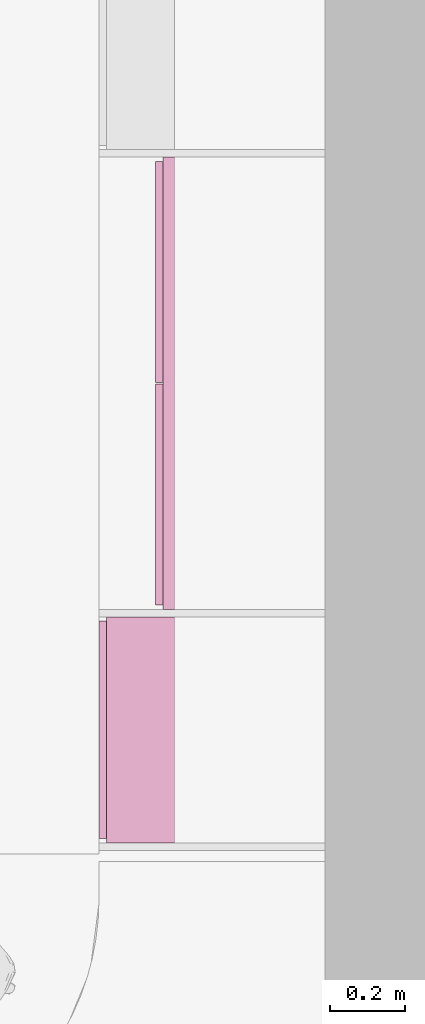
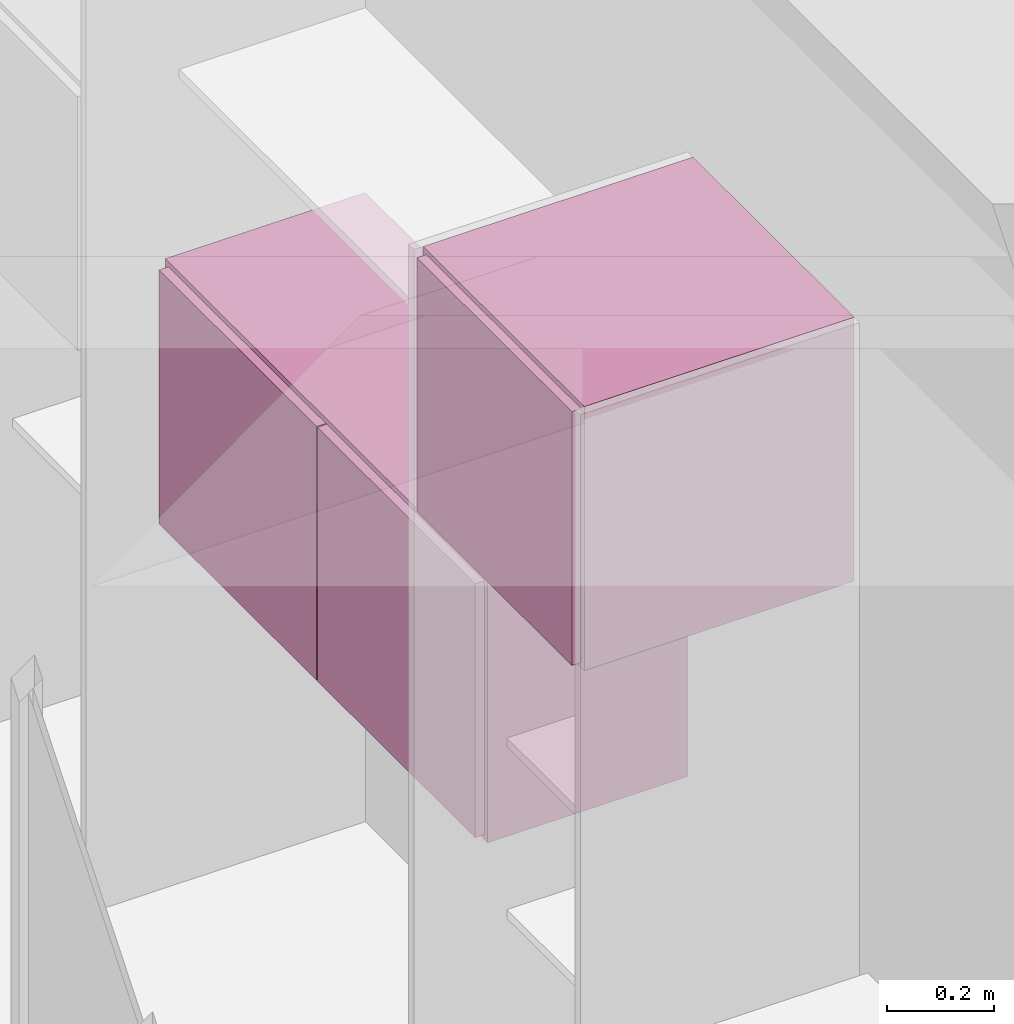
# One storey, part 52 of 64: 2 furnishings.
"""IFC2X3 building model written with IfcOpenShell, lengths in metres."""

from ifc_helpers import new_model, entity, si_unit, converted_unit, derived_unit, direction, frame, origin, place, context, subcontext, project, spatial, faceted_brep, source, transform, mapped, material, type_object, type_shapes, element, save


model = new_model("IFC2X3")

# Units and contexts
model_context = context("Model", 3, precision=1e-05, world=origin(), true_north=direction((6.123031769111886e-17, 1.0)))
body_context = subcontext(model_context, "Body", "Model", "MODEL_VIEW")
ifc_project = project(units=[si_unit("LENGTHUNIT", "METRE"), si_unit("AREAUNIT", "SQUARE_METRE"), si_unit("VOLUMEUNIT", "CUBIC_METRE"), converted_unit("PLANEANGLEUNIT", "DEGREE", entity("IfcRatioMeasure", 0.017453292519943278), si_unit("PLANEANGLEUNIT", "RADIAN"), dimensions=[0, 0, 0, 0, 0, 0, 0]), si_unit("MASSUNIT", "GRAM", prefix="KILO"), derived_unit("MASSDENSITYUNIT", [(si_unit("MASSUNIT", "GRAM", prefix="KILO"), 1), (si_unit("LENGTHUNIT", "METRE"), -3)]), derived_unit("MOMENTOFINERTIAUNIT", [(si_unit("LENGTHUNIT", "METRE"), 4)]), si_unit("TIMEUNIT", "SECOND"), si_unit("FREQUENCYUNIT", "HERTZ"), si_unit("THERMODYNAMICTEMPERATUREUNIT", "DEGREE_CELSIUS"), derived_unit("THERMALTRANSMITTANCEUNIT", [(si_unit("MASSUNIT", "GRAM", prefix="KILO"), 1), (si_unit("THERMODYNAMICTEMPERATUREUNIT", "KELVIN"), -1), (si_unit("TIMEUNIT", "SECOND"), -3)]), derived_unit("THERMALCONDUCTANCEUNIT", [(si_unit("MASSUNIT", "GRAM", prefix="KILO"), 1), (si_unit("LENGTHUNIT", "METRE"), 1), (si_unit("THERMODYNAMICTEMPERATUREUNIT", "KELVIN"), -1), (si_unit("TIMEUNIT", "SECOND"), -3)]), derived_unit("VOLUMETRICFLOWRATEUNIT", [(si_unit("LENGTHUNIT", "METRE"), 3), (si_unit("TIMEUNIT", "SECOND"), -1)]), derived_unit("MASSFLOWRATEUNIT", [(si_unit("MASSUNIT", "GRAM", prefix="KILO"), 1), (si_unit("TIMEUNIT", "SECOND"), -1)]), derived_unit("ROTATIONALFREQUENCYUNIT", [(si_unit("TIMEUNIT", "SECOND"), -1)]), si_unit("ELECTRICCURRENTUNIT", "AMPERE"), si_unit("ELECTRICVOLTAGEUNIT", "VOLT"), si_unit("POWERUNIT", "WATT"), si_unit("FORCEUNIT", "NEWTON", prefix="KILO"), si_unit("ILLUMINANCEUNIT", "LUX"), si_unit("LUMINOUSFLUXUNIT", "LUMEN"), si_unit("LUMINOUSINTENSITYUNIT", "CANDELA"), derived_unit("USERDEFINED", [(si_unit("MASSUNIT", "GRAM", prefix="KILO"), -1), (si_unit("LENGTHUNIT", "METRE"), -2), (si_unit("TIMEUNIT", "SECOND"), 3), (si_unit("LUMINOUSFLUXUNIT", "LUMEN"), 1)]), derived_unit("USERDEFINED", [(si_unit("MASSUNIT", "GRAM", prefix="KILO"), 1), (si_unit("LENGTHUNIT", "METRE"), 3), (si_unit("TIMEUNIT", "SECOND"), -3), (si_unit("ELECTRICCURRENTUNIT", "AMPERE"), -2)]), derived_unit("USERDEFINED", [(si_unit("LENGTHUNIT", "METRE"), 2), (si_unit("TIMEUNIT", "SECOND"), -2)]), derived_unit("SOUNDPOWERUNIT", [(si_unit("MASSUNIT", "GRAM", prefix="KILO"), 1), (si_unit("LENGTHUNIT", "METRE"), 2), (si_unit("TIMEUNIT", "SECOND"), -3)]), derived_unit("SOUNDPRESSUREUNIT", [(si_unit("MASSUNIT", "GRAM", prefix="KILO"), 1), (si_unit("LENGTHUNIT", "METRE"), -1), (si_unit("TIMEUNIT", "SECOND"), -2)]), derived_unit("LINEARVELOCITYUNIT", [(si_unit("LENGTHUNIT", "METRE"), 1), (si_unit("TIMEUNIT", "SECOND"), -1)]), si_unit("PRESSUREUNIT", "PASCAL"), derived_unit("USERDEFINED", [(si_unit("LENGTHUNIT", "METRE"), -2), (si_unit("MASSUNIT", "GRAM", prefix="KILO"), 1), (si_unit("TIMEUNIT", "SECOND"), -2)]), derived_unit("LINEARFORCEUNIT", [(si_unit("MASSUNIT", "GRAM", prefix="KILO"), 1), (si_unit("LENGTHUNIT", "METRE"), 1), (si_unit("TIMEUNIT", "SECOND"), -2), (si_unit("LENGTHUNIT", "METRE"), -1)]), derived_unit("PLANARFORCEUNIT", [(si_unit("MASSUNIT", "GRAM", prefix="KILO"), 1), (si_unit("LENGTHUNIT", "METRE"), 1), (si_unit("TIMEUNIT", "SECOND"), -2), (si_unit("LENGTHUNIT", "METRE"), -2)]), derived_unit("SPECIFICHEATCAPACITYUNIT", [(si_unit("LENGTHUNIT", "METRE"), 2), (si_unit("TIMEUNIT", "SECOND"), -2), (si_unit("THERMODYNAMICTEMPERATUREUNIT", "KELVIN"), -1)]), derived_unit("VAPORPERMEABILITYUNIT", [(si_unit("TIMEUNIT", "SECOND"), 1), (si_unit("LENGTHUNIT", "METRE"), -1)]), derived_unit("DYNAMICVISCOSITYUNIT", [(si_unit("MASSUNIT", "GRAM", prefix="KILO"), 1), (si_unit("LENGTHUNIT", "METRE"), -1), (si_unit("TIMEUNIT", "SECOND"), -1)]), derived_unit("THERMALEXPANSIONCOEFFICIENTUNIT", [(si_unit("THERMODYNAMICTEMPERATUREUNIT", "KELVIN"), -1)])], contexts=[model_context])

# Site, building, storey
site_placement = place(None, origin())
site = spatial("IfcSite", under=ifc_project, at=site_placement, Name="Default", CompositionType="ELEMENT")
building_placement = place(site_placement, origin())
building = spatial("IfcBuilding", under=site, at=building_placement, CompositionType="ELEMENT")
storey_placement = place(building_placement, origin())
storey = spatial("IfcBuildingStorey", under=building, at=storey_placement, Name="REZ-DE-CHAUSSÉE", CompositionType="ELEMENT", Elevation=0.0)

# Furnishings
ifc_material = material(Name="Peinture - Blanc titanium")
furnishing_element_type_1 = type_object("IfcFurnishingElementType", Name="Symb-0004", material=ifc_material)
shared_shape_1 = source(origin(), body_context, "Body", "Brep", [
    faceted_brep([(0.4500000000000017, 0.01999999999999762, 0.02000000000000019), (0.4500000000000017, 0.01999999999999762, 0.58), (0.4300000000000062, 0.01999999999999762, 0.58), (0.4300000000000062, 0.01999999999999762, 0.02000000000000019), (0.4500000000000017, 1.179999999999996, 0.02000000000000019), (0.4500000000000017, 1.179999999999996, 0.58), (0.4300000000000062, 1.179999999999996, 0.58), (0.4300000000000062, 1.179999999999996, 0.02000000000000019), (0.019999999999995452, 1.1999999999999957, 0.0), (0.4500000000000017, 1.1999999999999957, 0.0), (0.4500000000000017, 1.179999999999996, 0.0), (0.019999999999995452, 1.179999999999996, 0.0), (0.019999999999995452, 1.1999999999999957, 0.6000000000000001), (0.4500000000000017, 1.1999999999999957, 0.6000000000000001), (0.4500000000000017, 1.179999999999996, 0.6000000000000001), (0.019999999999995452, 1.179999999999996, 0.6000000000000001), (0.019999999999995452, 0.01999999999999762, 0.0), (0.4500000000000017, 0.01999999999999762, 0.0), (0.4500000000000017, 0.0, 0.0), (0.019999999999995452, 0.0, 0.0), (0.019999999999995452, 0.01999999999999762, 0.6000000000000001), (0.4500000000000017, 0.01999999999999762, 0.6000000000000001), (0.4500000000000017, 0.0, 0.6000000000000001), (0.019999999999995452, 0.0, 0.6000000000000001), (0.019999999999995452, 1.179999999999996, 0.02000000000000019), (0.019999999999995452, 0.01999999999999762, 0.02000000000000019), (0.019999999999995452, 1.179999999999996, 0.58), (0.019999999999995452, 0.01999999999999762, 0.58), (0.4300000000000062, 0.01999999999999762, 0.0), (0.4300000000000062, 1.179999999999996, 0.0), (0.019999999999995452, 0.01149999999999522, 0.011500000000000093), (0.0, 0.01149999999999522, 0.011500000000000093), (0.0, 0.598499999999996, 0.011500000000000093), (0.019999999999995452, 0.598499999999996, 0.011500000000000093), (0.019999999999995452, 0.01149999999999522, 0.5884999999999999), (0.0, 0.01149999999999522, 0.5884999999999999), (0.0, 0.598499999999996, 0.5884999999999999), (0.019999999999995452, 0.598499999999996, 0.5884999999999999), (0.019999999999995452, 1.1884999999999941, 0.011500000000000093), (0.019999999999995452, 0.6014999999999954, 0.011500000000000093), (0.0, 0.6014999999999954, 0.011500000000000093), (0.0, 1.1884999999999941, 0.011500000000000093), (0.019999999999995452, 1.1884999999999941, 0.5884999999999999), (0.019999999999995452, 0.6014999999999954, 0.5884999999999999), (0.0, 0.6014999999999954, 0.5884999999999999), (0.0, 1.1884999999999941, 0.5884999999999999)], [[[0, 1, 2, 3]], [[4, 5, 1, 0]], [[1, 5, 6, 2]], [[3, 2, 6, 7]], [[0, 3, 7, 4]], [[7, 6, 5, 4]], [[8, 9, 10, 11]], [[8, 12, 13, 9]], [[9, 13, 14, 10]], [[10, 14, 15, 11]], [[11, 15, 12, 8]], [[15, 14, 13, 12]], [[16, 17, 18, 19]], [[16, 20, 21, 17]], [[17, 21, 22, 18]], [[18, 22, 23, 19]], [[19, 23, 20, 16]], [[23, 22, 21, 20]], [[11, 10, 17, 16]], [[11, 24, 4, 10]], [[10, 4, 0, 17]], [[17, 0, 25, 16]], [[16, 25, 24, 11]], [[25, 0, 4, 24]], [[26, 5, 1, 27]], [[26, 15, 14, 5]], [[5, 14, 21, 1]], [[1, 21, 20, 27]], [[27, 20, 15, 26]], [[20, 21, 14, 15]], [[17, 28, 29, 10]], [[18, 19, 16, 17]], [[10, 11, 8, 9]], [[30, 31, 32, 33]], [[34, 35, 31, 30]], [[31, 35, 36, 32]], [[33, 32, 36, 37]], [[30, 33, 37, 34]], [[37, 36, 35, 34]], [[38, 39, 40, 41]], [[38, 42, 43, 39]], [[39, 43, 44, 40]], [[41, 40, 44, 45]], [[42, 38, 41, 45]], [[43, 42, 45, 44]]]),
])
type_shapes(furnishing_element_type_1, [shared_shape_1])
furnishing_1_placement = place(storey_placement, frame((127.54075227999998, 17.277209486, 0.8299999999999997)))
element("IfcFurnishingElement", 1, at=furnishing_1_placement, inside=storey, type_object=furnishing_element_type_1, material=ifc_material, Name="Symb-0004 154335:Symb-0004 154335", ObjectType="Symb-0004 154335:Symb-0004 154335", context=body_context, shape_type="MappedRepresentation", body=[
    mapped(shared_shape_1, transform((0.0, 0.0, 0.0), scale=1.0)),
])
furnishing_element_type_2 = type_object("IfcFurnishingElementType", Name="Symb-0007", material=ifc_material)
shared_shape_2 = source(origin(), body_context, "Body", "Brep", [
    faceted_brep([(0.6000000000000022, 0.020000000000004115, 0.020000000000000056), (0.6000000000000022, 0.020000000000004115, 0.58), (0.5800000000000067, 0.020000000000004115, 0.58), (0.5800000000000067, 0.020000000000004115, 0.020000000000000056), (0.6000000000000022, 0.5800000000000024, 0.020000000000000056), (0.6000000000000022, 0.5800000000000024, 0.58), (0.5800000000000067, 0.5800000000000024, 0.58), (0.5800000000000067, 0.5800000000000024, 0.020000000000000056), (0.02000000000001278, 0.6000000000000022, 0.0), (0.6000000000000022, 0.6000000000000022, 0.0), (0.6000000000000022, 0.5800000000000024, 0.0), (0.02000000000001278, 0.5800000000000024, 0.0), (0.02000000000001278, 0.6000000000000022, 0.6000000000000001), (0.6000000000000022, 0.6000000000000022, 0.6000000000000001), (0.6000000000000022, 0.5800000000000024, 0.6000000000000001), (0.02000000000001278, 0.5800000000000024, 0.6000000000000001), (0.02000000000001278, 0.020000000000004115, 0.0), (0.6000000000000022, 0.020000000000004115, 0.0), (0.6000000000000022, 0.0, 0.0), (0.02000000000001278, 0.0, 0.0), (0.02000000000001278, 0.020000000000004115, 0.6000000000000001), (0.6000000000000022, 0.020000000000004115, 0.6000000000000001), (0.6000000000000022, 0.0, 0.6000000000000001), (0.02000000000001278, 0.0, 0.6000000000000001), (0.02000000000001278, 0.5800000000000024, 0.020000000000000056), (0.02000000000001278, 0.020000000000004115, 0.020000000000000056), (0.02000000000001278, 0.5800000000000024, 0.58), (0.02000000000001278, 0.020000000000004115, 0.58), (0.5800000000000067, 0.020000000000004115, 0.0), (0.5800000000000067, 0.5800000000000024, 0.0), (0.02000000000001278, 0.011500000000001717, 0.011500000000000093), (0.0, 0.011500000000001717, 0.011500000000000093), (0.0, 0.5885000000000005, 0.011500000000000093), (0.02000000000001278, 0.5885000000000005, 0.011500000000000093), (0.02000000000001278, 0.011500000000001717, 0.5885000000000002), (0.0, 0.011500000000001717, 0.5885000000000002), (0.0, 0.5885000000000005, 0.5885000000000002), (0.02000000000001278, 0.5885000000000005, 0.5885000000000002)], [[[0, 1, 2, 3]], [[4, 5, 1, 0]], [[1, 5, 6, 2]], [[3, 2, 6, 7]], [[0, 3, 7, 4]], [[7, 6, 5, 4]], [[8, 9, 10, 11]], [[8, 12, 13, 9]], [[9, 13, 14, 10]], [[10, 14, 15, 11]], [[11, 15, 12, 8]], [[15, 14, 13, 12]], [[16, 17, 18, 19]], [[16, 20, 21, 17]], [[17, 21, 22, 18]], [[18, 22, 23, 19]], [[19, 23, 20, 16]], [[23, 22, 21, 20]], [[11, 10, 17, 16]], [[11, 24, 4, 10]], [[10, 4, 0, 17]], [[17, 0, 25, 16]], [[16, 25, 24, 11]], [[25, 0, 4, 24]], [[26, 5, 1, 27]], [[26, 15, 14, 5]], [[5, 14, 21, 1]], [[1, 21, 20, 27]], [[27, 20, 15, 26]], [[20, 21, 14, 15]], [[17, 28, 29, 10]], [[18, 19, 16, 17]], [[10, 11, 8, 9]], [[30, 31, 32, 33]], [[34, 35, 31, 30]], [[31, 35, 36, 32]], [[33, 32, 36, 37]], [[30, 33, 37, 34]], [[37, 36, 35, 34]]]),
])
type_shapes(furnishing_element_type_2, [shared_shape_2])
furnishing_2_placement = place(storey_placement, frame((127.39075227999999, 16.657209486, 1.65)))
element("IfcFurnishingElement", 2, at=furnishing_2_placement, inside=storey, type_object=furnishing_element_type_2, material=ifc_material, Name="Symb-0007 190874:Symb-0007 190874", ObjectType="Symb-0007 190874:Symb-0007 190874", context=body_context, shape_type="MappedRepresentation", body=[
    mapped(shared_shape_2, transform((0.0, 0.0, 0.0), scale=1.0)),
])

save(model, "model.ifc")
